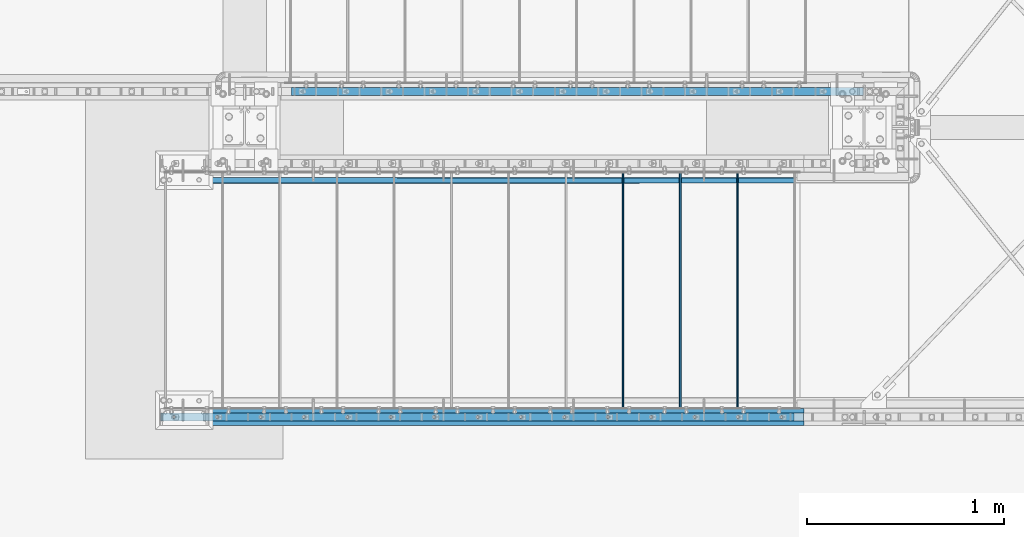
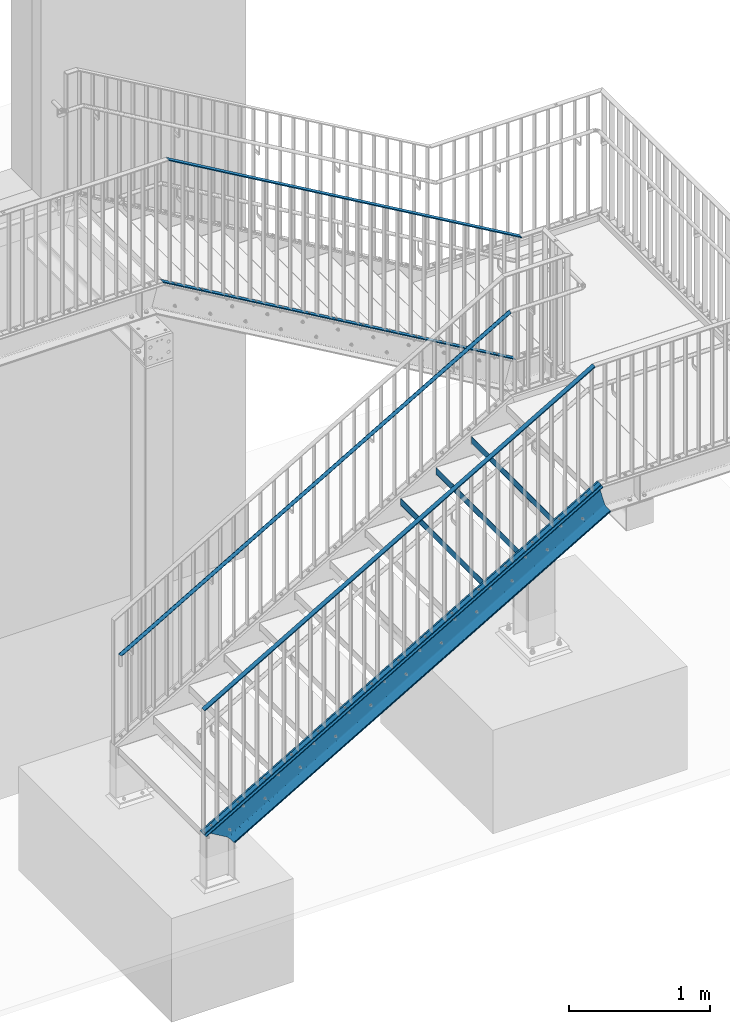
# One storey, part 13 of 145: 6 members, 3 beams, 64 openings.
"""IFC2X3 building model written with IfcOpenShell, lengths in millimetres."""

from ifc_helpers import new_model, entity, si_unit, converted_unit, frame, frame_2d, origin, origin_with_axes, origin_2d, origin_2d_with_axis, place, context, project, spatial, polyline, rectangle, circle, hollow_circle, u_section, outline, extrude, clip, halfspace, material, element, save


model = new_model("IFC2X3")

# Units and contexts
model_context = context("Model", 3, precision=1e-09, world=origin_with_axes())
ifc_project = project(units=[si_unit("LENGTHUNIT", "METRE", prefix="MILLI"), si_unit("AREAUNIT", "SQUARE_METRE"), si_unit("VOLUMEUNIT", "CUBIC_METRE"), converted_unit("PLANEANGLEUNIT", "DEGREE", entity("IfcPlaneAngleMeasure", 0.01745329), si_unit("PLANEANGLEUNIT", "RADIAN"), dimensions=[0, 0, 0, 0, 0, 0, 0])], contexts=[model_context])

# Site, building, storey
site_placement = place(None, origin_with_axes())
site = spatial("IfcSite", under=ifc_project, at=site_placement, Name="BZ1 Grund- und Mittelschule 85716 Unterschlei?heim", CompositionType="ELEMENT")
building_placement = place(site_placement, origin_with_axes())
building = spatial("IfcBuilding", under=site, at=building_placement, Name="Struktur 1", CompositionType="ELEMENT")
storey_placement = place(building_placement, origin_with_axes())
storey = spatial("IfcBuildingStorey", under=building, at=storey_placement, Name="Default Storey", CompositionType="ELEMENT", Elevation=0.0)

# Member
ifc_material_1 = material(Name="1.4301")
member_1_placement = place(None, frame((16638.389854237, -1962.502, 526.075041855), z_axis=(0.864466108, 0.0, 0.502691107), x_axis=(0.0, 1.0, 0.0)))
element("IfcMember", 1, at=member_1_placement, inside=storey, material=ifc_material_1, Name="-", ObjectType="-", context=model_context, shape_type="Clipping", body=[
    clip(clip(extrude(hollow_circle(Radius=15.0, WallThickness=2.0, at=origin_2d()), origin(), (0.0, 0.0, 1.0), 3747.044210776), halfspace(frame((1962.502, 2755.280359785, 4467.941930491), z_axis=(0.0, 0.260320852, -0.965522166), x_axis=(-1.0, 0.0, 0.0)), True)), halfspace(frame((1962.502, 12284.371726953, -7042.462647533), z_axis=(0.0, 0.498652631, 0.866801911), x_axis=(1.0, 0.0, 0.0)), True)),
])

# Beams
ifc_material_2 = material(Name="S235JR")
for number, where, z_axis, x_axis in (
    (2, (18984.545399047, -3117.002, 1057.727273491), (0.0, -1.0, 0.0), (1.0, 0.0, 0.0)),
    (3, (19274.545399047, -3117.002, 1226.363637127), (0.0, -1.0, 0.0), (1.0, 0.0, 0.0)),
    (4, (19564.545399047, -3117.002, 1395.000000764), (0.0, -1.0, 0.0), (1.0, 0.0, 0.0)),
):
    element("IfcBeam", number, at=place(None, frame(where, z_axis=z_axis, x_axis=x_axis)), inside=storey, material=ifc_material_2, Name="-", ObjectType="-", context=model_context, shape_type="SweptSolid", body=[
        extrude(outline(polyline([(0.0, 0.0), (0.0, -57.009618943), (7.5, -70.0), (9.232050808, -69.0), (2.0, -56.473720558), (2.0, 0.0), (0.0, 0.0)])), origin(), (0.0, 0.0, -1.0), 1194.0),
    ])

# Member, openings
member_2_placement = place(None, frame((20174.891483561, -1512.502, 1607.017315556), z_axis=(0.864466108, 0.0, -0.502691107), x_axis=(0.502691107, 0.0, 0.864466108)))
member_2 = element("IfcMember", 5, at=member_2_placement, inside=storey, material=ifc_material_2, Name="-", ObjectType="-", context=model_context, shape_type="Clipping", body=[
    clip(clip(extrude(rectangle(XDim=8.0, YDim=40.0, at=origin_2d()), origin(), (0.0, 0.0, -1.0), 3396.921412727), halfspace(frame((-7417.475228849, -1512.502, -1375.921150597), z_axis=(0.260320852, 0.0, 0.965522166), x_axis=(0.0, -1.0, 0.0)), True)), halfspace(frame((-6574.293706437, -1512.502, 1751.413609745), z_axis=(-0.260320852, 0.0, -0.965522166), x_axis=(0.0, 1.0, 0.0)), True)),
])
opening_1_placement = place(member_2_placement, frame((-4.5, 0.0, -1457.609600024), z_axis=(-1.0, 0.0, 0.0), x_axis=(0.0, -1.0, 0.0)))
element("IfcOpeningElement", 6, at=opening_1_placement, cuts=member_2, ObjectType="Opening", context=model_context, shape_type="SweptSolid", body=[
    extrude(circle(Radius=7.501, at=frame_2d((0.0, -7.501), x_axis=(1.0, 0.0))), origin(), (0.0, 0.0, -1.0), 9.0),
])
opening_2_placement = place(member_2_placement, frame((-4.5, 0.0, -3239.05770343), z_axis=(-1.0, 0.0, 0.0), x_axis=(0.0, -1.0, 0.0)))
element("IfcOpeningElement", 7, at=opening_2_placement, cuts=member_2, ObjectType="Opening", context=model_context, shape_type="SweptSolid", body=[
    extrude(circle(Radius=7.501, at=frame_2d((0.0, -7.501), x_axis=(1.0, 0.0))), origin(), (0.0, 0.0, -1.0), 9.0),
])
opening_3_placement = place(member_2_placement, frame((-4.5, -0.004106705, -2984.564784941), z_axis=(-1.0, 0.0, 0.0), x_axis=(0.0, -1.0, 0.0)))
element("IfcOpeningElement", 8, at=opening_3_placement, cuts=member_2, ObjectType="Opening", context=model_context, shape_type="SweptSolid", body=[
    extrude(circle(Radius=7.501, at=frame_2d((0.0, -7.501), x_axis=(1.0, 0.0))), origin(), (0.0, 0.0, -1.0), 9.0),
])
opening_4_placement = place(member_2_placement, frame((-4.5, 0.0, -2221.087773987), z_axis=(-1.0, 0.0, 0.0), x_axis=(0.0, -1.0, 0.0)))
element("IfcOpeningElement", 9, at=opening_4_placement, cuts=member_2, ObjectType="Opening", context=model_context, shape_type="SweptSolid", body=[
    extrude(circle(Radius=7.501, at=frame_2d((0.0, -7.501), x_axis=(1.0, 0.0))), origin(), (0.0, 0.0, -1.0), 9.0),
])
opening_5_placement = place(member_2_placement, frame((-4.5, 0.0, -185.146752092), z_axis=(-1.0, 0.0, 0.0), x_axis=(0.0, -1.0, 0.0)))
element("IfcOpeningElement", 10, at=opening_5_placement, cuts=member_2, ObjectType="Opening", context=model_context, shape_type="SweptSolid", body=[
    extrude(circle(Radius=7.501, at=frame_2d((0.0, -7.501), x_axis=(1.0, 0.0))), origin(), (0.0, 0.0, -1.0), 9.0),
])
opening_6_placement = place(member_2_placement, frame((-4.5, 0.0, -439.639670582), z_axis=(-1.0, 0.0, 0.0), x_axis=(0.0, -1.0, 0.0)))
element("IfcOpeningElement", 11, at=opening_6_placement, cuts=member_2, ObjectType="Opening", context=model_context, shape_type="SweptSolid", body=[
    extrude(circle(Radius=7.501, at=frame_2d((0.0, -7.501), x_axis=(1.0, 0.0))), origin(), (0.0, 0.0, -1.0), 9.0),
])
opening_7_placement = place(member_2_placement, frame((-4.5, 0.0, -1203.11726304), z_axis=(-1.0, 0.0, 0.0), x_axis=(0.0, -1.0, 0.0)))
element("IfcOpeningElement", 12, at=opening_7_placement, cuts=member_2, ObjectType="Opening", context=model_context, shape_type="SweptSolid", body=[
    extrude(circle(Radius=7.501, at=frame_2d((0.0, -7.501), x_axis=(1.0, 0.0))), origin(), (0.0, 0.0, -1.0), 9.0),
])
opening_8_placement = place(member_2_placement, frame((-4.5, 0.0, -948.624344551), z_axis=(-1.0, 0.0, 0.0), x_axis=(0.0, -1.0, 0.0)))
element("IfcOpeningElement", 13, at=opening_8_placement, cuts=member_2, ObjectType="Opening", context=model_context, shape_type="SweptSolid", body=[
    extrude(circle(Radius=7.501, at=frame_2d((0.0, -7.501), x_axis=(1.0, 0.0))), origin(), (0.0, 0.0, -1.0), 9.0),
])
opening_9_placement = place(member_2_placement, frame((-4.5, 0.0, -2730.071866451), z_axis=(-1.0, 0.0, 0.0), x_axis=(0.0, -1.0, 0.0)))
element("IfcOpeningElement", 14, at=opening_9_placement, cuts=member_2, ObjectType="Opening", context=model_context, shape_type="SweptSolid", body=[
    extrude(circle(Radius=7.501, at=frame_2d((0.0, -7.501), x_axis=(1.0, 0.0))), origin(), (0.0, 0.0, -1.0), 9.0),
])
opening_10_placement = place(member_2_placement, frame((-4.5, 0.0, -2475.579529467), z_axis=(-1.0, 0.0, 0.0), x_axis=(0.0, -1.0, 0.0)))
element("IfcOpeningElement", 15, at=opening_10_placement, cuts=member_2, ObjectType="Opening", context=model_context, shape_type="SweptSolid", body=[
    extrude(circle(Radius=7.501, at=frame_2d((0.0, -7.501), x_axis=(1.0, 0.0))), origin(), (0.0, 0.0, -1.0), 9.0),
])
opening_11_placement = place(member_2_placement, frame((-4.5, 0.0, -1966.595437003), z_axis=(-1.0, 0.0, 0.0), x_axis=(0.0, -1.0, 0.0)))
element("IfcOpeningElement", 16, at=opening_11_placement, cuts=member_2, ObjectType="Opening", context=model_context, shape_type="SweptSolid", body=[
    extrude(circle(Radius=7.501, at=frame_2d((0.0, -7.501), x_axis=(1.0, 0.0))), origin(), (0.0, 0.0, -1.0), 9.0),
])
opening_12_placement = place(member_2_placement, frame((-4.5, 0.0, -1712.102518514), z_axis=(-1.0, 0.0, 0.0), x_axis=(0.0, -1.0, 0.0)))
element("IfcOpeningElement", 17, at=opening_12_placement, cuts=member_2, ObjectType="Opening", context=model_context, shape_type="SweptSolid", body=[
    extrude(circle(Radius=7.501, at=frame_2d((0.0, -7.501), x_axis=(1.0, 0.0))), origin(), (0.0, 0.0, -1.0), 9.0),
])
opening_13_placement = place(member_2_placement, frame((-4.5, 0.0, -694.132007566), z_axis=(-1.0, 0.0, 0.0), x_axis=(0.0, -1.0, 0.0)))
element("IfcOpeningElement", 18, at=opening_13_placement, cuts=member_2, ObjectType="Opening", context=model_context, shape_type="SweptSolid", body=[
    extrude(circle(Radius=7.501, at=frame_2d((0.0, -7.501), x_axis=(1.0, 0.0))), origin(), (0.0, 0.0, -1.0), 9.0),
])

# Member
member_3_placement = place(None, frame((20224.324846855, -1512.502, 2649.017315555), z_axis=(0.864466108, 0.0, -0.502691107), x_axis=(0.502691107, 0.0, 0.864466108)))
element("IfcMember", 19, at=member_3_placement, inside=storey, material=ifc_material_2, Name="-", ObjectType="-", context=model_context, shape_type="Clipping", body=[
    clip(clip(extrude(rectangle(XDim=8.0, YDim=40.0, at=origin_2d()), origin(), (0.0, 0.0, -1.0), 3396.920517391), halfspace(frame((-8401.286702, -1512.502, -1110.668301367), z_axis=(0.260320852, 0.0, 0.965522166), x_axis=(0.0, -1.0, 0.0)), True)), halfspace(frame((-7558.105404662, -1512.502, 2016.665624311), z_axis=(-0.260320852, 0.0, -0.965522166), x_axis=(0.0, 1.0, 0.0)), True)),
])

# Member, openings
member_4_placement = place(None, frame((16613.187174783, -3162.502, -296.601551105), z_axis=(-0.864466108, 0.0, -0.502691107), x_axis=(0.502691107, 0.0, -0.864466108)))
member_4 = element("IfcMember", 20, at=member_4_placement, inside=storey, material=ifc_material_2, Name="-", ObjectType="-", context=model_context, shape_type="Clipping", body=[
    clip(clip(extrude(rectangle(XDim=8.0, YDim=40.0, at=origin_2d()), origin(), (0.0, 0.0, -1.0), 3829.105765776), halfspace(frame((4020.422097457, -3162.502, 6947.74731383), z_axis=(0.866801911, 0.0, -0.498652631), x_axis=(0.0, -1.0, 0.0)), True)), halfspace(frame((-3495.033569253, -3162.502, -4750.299571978), z_axis=(-0.260320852, 0.0, 0.965522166), x_axis=(0.0, 1.0, 0.0)), True)),
])
opening_14_placement = place(member_4_placement, frame((4.5, 0.0, -2660.773127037), z_axis=(-1.0, 0.0, 0.0), x_axis=(0.0, 0.0, -1.0)))
element("IfcOpeningElement", 21, at=opening_14_placement, cuts=member_4, ObjectType="Opening", context=model_context, shape_type="SweptSolid", body=[
    extrude(circle(Radius=7.501, at=origin_2d_with_axis()), origin(), (0.0, 0.0, 1.0), 9.0),
])
opening_15_placement = place(member_4_placement, frame((4.5, 0.0, -2151.787871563), z_axis=(-1.0, 0.0, 0.0), x_axis=(0.0, 0.0, -1.0)))
element("IfcOpeningElement", 22, at=opening_15_placement, cuts=member_4, ObjectType="Opening", context=model_context, shape_type="SweptSolid", body=[
    extrude(circle(Radius=7.501, at=origin_2d_with_axis()), origin(), (0.0, 0.0, 1.0), 9.0),
])
opening_16_placement = place(member_4_placement, frame((4.5, 0.0, -1388.310279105), z_axis=(-1.0, 0.0, 0.0), x_axis=(0.0, 0.0, -1.0)))
element("IfcOpeningElement", 23, at=opening_16_placement, cuts=member_4, ObjectType="Opening", context=model_context, shape_type="SweptSolid", body=[
    extrude(circle(Radius=7.501, at=origin_2d_with_axis()), origin(), (0.0, 0.0, 1.0), 9.0),
])
opening_17_placement = place(member_4_placement, frame((4.5, 0.0, -2406.280790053), z_axis=(-1.0, 0.0, 0.0), x_axis=(0.0, 0.0, -1.0)))
element("IfcOpeningElement", 24, at=opening_17_placement, cuts=member_4, ObjectType="Opening", context=model_context, shape_type="SweptSolid", body=[
    extrude(circle(Radius=7.501, at=origin_2d_with_axis()), origin(), (0.0, 0.0, 1.0), 9.0),
])
opening_18_placement = place(member_4_placement, frame((4.5, -0.004106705, -3424.25013799), z_axis=(-1.0, 0.0, 0.0), x_axis=(0.0, 0.0, -1.0)))
element("IfcOpeningElement", 25, at=opening_18_placement, cuts=member_4, ObjectType="Opening", context=model_context, shape_type="SweptSolid", body=[
    extrude(circle(Radius=7.501, at=origin_2d_with_axis()), origin(), (0.0, 0.0, 1.0), 9.0),
])
opening_19_placement = place(member_4_placement, frame((4.5, 0.0, -3678.74305648), z_axis=(-1.0, 0.0, 0.0), x_axis=(0.0, 0.0, -1.0)))
element("IfcOpeningElement", 26, at=opening_19_placement, cuts=member_4, ObjectType="Opening", context=model_context, shape_type="SweptSolid", body=[
    extrude(circle(Radius=7.501, at=origin_2d_with_axis()), origin(), (0.0, 0.0, 1.0), 9.0),
])
opening_20_placement = place(member_4_placement, frame((4.5, 0.0, -1897.294953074), z_axis=(-1.0, 0.0, 0.0), x_axis=(0.0, 0.0, -1.0)))
element("IfcOpeningElement", 27, at=opening_20_placement, cuts=member_4, ObjectType="Opening", context=model_context, shape_type="SweptSolid", body=[
    extrude(circle(Radius=7.501, at=origin_2d_with_axis()), origin(), (0.0, 0.0, 1.0), 9.0),
])
opening_21_placement = place(member_4_placement, frame((4.5, 0.0, -624.832686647), z_axis=(-1.0, 0.0, 0.0), x_axis=(0.0, 0.0, -1.0)))
element("IfcOpeningElement", 28, at=opening_21_placement, cuts=member_4, ObjectType="Opening", context=model_context, shape_type="SweptSolid", body=[
    extrude(circle(Radius=7.501, at=origin_2d_with_axis()), origin(), (0.0, 0.0, 1.0), 9.0),
])
opening_22_placement = place(member_4_placement, frame((4.5, 0.0, -3169.757219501), z_axis=(-1.0, 0.0, 0.0), x_axis=(0.0, 0.0, -1.0)))
element("IfcOpeningElement", 29, at=opening_22_placement, cuts=member_4, ObjectType="Opening", context=model_context, shape_type="SweptSolid", body=[
    extrude(circle(Radius=7.501, at=origin_2d_with_axis()), origin(), (0.0, 0.0, 1.0), 9.0),
])
opening_23_placement = place(member_4_placement, frame((4.5, 0.0, -1133.817942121), z_axis=(-1.0, 0.0, 0.0), x_axis=(0.0, 0.0, -1.0)))
element("IfcOpeningElement", 30, at=opening_23_placement, cuts=member_4, ObjectType="Opening", context=model_context, shape_type="SweptSolid", body=[
    extrude(circle(Radius=7.501, at=origin_2d_with_axis()), origin(), (0.0, 0.0, 1.0), 9.0),
])
opening_24_placement = place(member_4_placement, frame((4.5, 0.0, -370.340349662), z_axis=(-1.0, 0.0, 0.0), x_axis=(0.0, 0.0, -1.0)))
element("IfcOpeningElement", 31, at=opening_24_placement, cuts=member_4, ObjectType="Opening", context=model_context, shape_type="SweptSolid", body=[
    extrude(circle(Radius=7.501, at=origin_2d_with_axis()), origin(), (0.0, 0.0, 1.0), 9.0),
])
opening_25_placement = place(member_4_placement, frame((4.5, 0.0, -879.325605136), z_axis=(-1.0, 0.0, 0.0), x_axis=(0.0, 0.0, -1.0)))
element("IfcOpeningElement", 32, at=opening_25_placement, cuts=member_4, ObjectType="Opening", context=model_context, shape_type="SweptSolid", body=[
    extrude(circle(Radius=7.501, at=origin_2d_with_axis()), origin(), (0.0, 0.0, 1.0), 9.0),
])
opening_26_placement = place(member_4_placement, frame((4.5, 0.0, -115.848012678), z_axis=(-1.0, 0.0, 0.0), x_axis=(0.0, 0.0, -1.0)))
element("IfcOpeningElement", 33, at=opening_26_placement, cuts=member_4, ObjectType="Opening", context=model_context, shape_type="SweptSolid", body=[
    extrude(circle(Radius=7.501, at=origin_2d_with_axis()), origin(), (0.0, 0.0, 1.0), 9.0),
])
opening_27_placement = place(member_4_placement, frame((4.5, 0.0, -1642.803197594), z_axis=(-1.0, 0.0, 0.0), x_axis=(0.0, 0.0, -1.0)))
element("IfcOpeningElement", 34, at=opening_27_placement, cuts=member_4, ObjectType="Opening", context=model_context, shape_type="SweptSolid", body=[
    extrude(circle(Radius=7.501, at=origin_2d_with_axis()), origin(), (0.0, 0.0, 1.0), 9.0),
])
opening_28_placement = place(member_4_placement, frame((4.5, 0.0, -2915.264882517), z_axis=(-1.0, 0.0, 0.0), x_axis=(0.0, 0.0, -1.0)))
element("IfcOpeningElement", 35, at=opening_28_placement, cuts=member_4, ObjectType="Opening", context=model_context, shape_type="SweptSolid", body=[
    extrude(circle(Radius=7.501, at=origin_2d_with_axis()), origin(), (0.0, 0.0, 1.0), 9.0),
])

member_5_placement = place(None, frame((16593.104863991, -3142.302, -451.720644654), z_axis=(-0.864466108, 0.0, -0.502691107), x_axis=(0.0, -1.0, 0.0)))
member_5 = element("IfcMember", 36, at=member_5_placement, inside=storey, material=ifc_material_2, Name="-", ObjectType="-", context=model_context, shape_type="Clipping", body=[
    clip(clip(extrude(u_section(Depth=240.0, FlangeWidth=85.0, WebThickness=9.5, FlangeThickness=13.0, FilletRadius=13.0, EdgeRadius=6.5, FlangeSlope=4.574, at=frame_2d((20.2, 0.0))), origin(), (0.0, 0.0, -1.0), 4047.92775273), halfspace(frame((-3142.302, 12748.124914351, 7135.403351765), z_axis=(0.0, 0.498652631, -0.866801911), x_axis=(-1.0, 0.0, 0.0)), True)), halfspace(frame((-3142.302, 3619.033794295, -4845.636203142), z_axis=(0.0, 0.260320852, 0.965522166), x_axis=(1.0, 0.0, 0.0)), True)),
])
opening_29_placement = place(member_5_placement, frame((20.2, 106.5, -3265.094685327), z_axis=(0.0, 1.0, 0.0), x_axis=(0.0, 0.0, -1.0)))
element("IfcOpeningElement", 37, at=opening_29_placement, cuts=member_5, ObjectType="Opening", context=model_context, shape_type="SweptSolid", body=[
    extrude(circle(Radius=7.001, at=origin_2d_with_axis()), origin(), (0.0, 0.0, 1.0), 14.0),
])
opening_30_placement = place(member_5_placement, frame((20.2, 106.5, -2247.125337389), z_axis=(0.0, 1.0, 0.0), x_axis=(0.0, 0.0, -1.0)))
element("IfcOpeningElement", 38, at=opening_30_placement, cuts=member_5, ObjectType="Opening", context=model_context, shape_type="SweptSolid", body=[
    extrude(circle(Radius=7.001, at=origin_2d_with_axis()), origin(), (0.0, 0.0, 1.0), 14.0),
])
opening_31_placement = place(member_5_placement, frame((20.2, 106.5, -1738.14066342), z_axis=(0.0, 1.0, 0.0), x_axis=(0.0, 0.0, -1.0)))
element("IfcOpeningElement", 39, at=opening_31_placement, cuts=member_5, ObjectType="Opening", context=model_context, shape_type="SweptSolid", body=[
    extrude(circle(Radius=7.001, at=origin_2d_with_axis()), origin(), (0.0, 0.0, 1.0), 14.0),
])
opening_32_placement = place(member_5_placement, frame((-12.3, -52.913545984, -1306.981680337), z_axis=(-1.0, 0.0, 0.0), x_axis=(0.0, 0.864466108, -0.502691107)))
element("IfcOpeningElement", 40, at=opening_32_placement, cuts=member_5, ObjectType="Opening", context=model_context, shape_type="SweptSolid", body=[
    extrude(circle(Radius=7.001, at=origin_2d_with_axis()), origin(), (0.0, 0.0, 1.0), 10.5),
])
opening_33_placement = place(member_5_placement, frame((-12.3, -52.913545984, -2984.317537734), z_axis=(-1.0, 0.0, 0.0), x_axis=(0.0, 0.864466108, -0.502691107)))
element("IfcOpeningElement", 41, at=opening_33_placement, cuts=member_5, ObjectType="Opening", context=model_context, shape_type="SweptSolid", body=[
    extrude(circle(Radius=7.001, at=origin_2d_with_axis()), origin(), (0.0, 0.0, 1.0), 10.5),
])
opening_34_placement = place(member_5_placement, frame((-12.3, 37.570853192, -1486.844952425), z_axis=(-1.0, 0.0, 0.0), x_axis=(0.0, 0.864466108, -0.502691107)))
element("IfcOpeningElement", 42, at=opening_34_placement, cuts=member_5, ObjectType="Opening", context=model_context, shape_type="SweptSolid", body=[
    extrude(circle(Radius=7.001, at=origin_2d_with_axis()), origin(), (0.0, 0.0, 1.0), 10.5),
])
opening_35_placement = place(member_5_placement, frame((-12.3, -52.913545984, -2648.850366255), z_axis=(-1.0, 0.0, 0.0), x_axis=(0.0, 0.864466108, -0.502691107)))
element("IfcOpeningElement", 43, at=opening_35_placement, cuts=member_5, ObjectType="Opening", context=model_context, shape_type="SweptSolid", body=[
    extrude(circle(Radius=7.001, at=origin_2d_with_axis()), origin(), (0.0, 0.0, 1.0), 10.5),
])
opening_36_placement = place(member_5_placement, frame((20.2, 106.5, -2756.110592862), z_axis=(0.0, 1.0, 0.0), x_axis=(0.0, 0.0, -1.0)))
element("IfcOpeningElement", 44, at=opening_36_placement, cuts=member_5, ObjectType="Opening", context=model_context, shape_type="SweptSolid", body=[
    extrude(circle(Radius=7.001, at=origin_2d_with_axis()), origin(), (0.0, 0.0, 1.0), 14.0),
])
opening_37_placement = place(member_5_placement, frame((20.195893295, 106.5, -3519.587603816), z_axis=(0.0, 1.0, 0.0), x_axis=(0.0, 0.0, -1.0)))
element("IfcOpeningElement", 45, at=opening_37_placement, cuts=member_5, ObjectType="Opening", context=model_context, shape_type="SweptSolid", body=[
    extrude(circle(Radius=7.001, at=origin_2d_with_axis()), origin(), (0.0, 0.0, 1.0), 14.0),
])
opening_38_placement = place(member_5_placement, frame((-12.3, -52.913545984, -636.047337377), z_axis=(-1.0, 0.0, 0.0), x_axis=(0.0, 0.864466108, -0.502691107)))
element("IfcOpeningElement", 46, at=opening_38_placement, cuts=member_5, ObjectType="Opening", context=model_context, shape_type="SweptSolid", body=[
    extrude(circle(Radius=7.001, at=origin_2d_with_axis()), origin(), (0.0, 0.0, 1.0), 10.5),
])
opening_39_placement = place(member_5_placement, frame((-12.3, 37.570853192, -480.443437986), z_axis=(-1.0, 0.0, 0.0), x_axis=(0.0, 0.864466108, -0.502691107)))
element("IfcOpeningElement", 47, at=opening_39_placement, cuts=member_5, ObjectType="Opening", context=model_context, shape_type="SweptSolid", body=[
    extrude(circle(Radius=7.001, at=origin_2d_with_axis()), origin(), (0.0, 0.0, 1.0), 10.5),
])
opening_40_placement = place(member_5_placement, frame((20.2, 106.5, -3774.080522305), z_axis=(0.0, 1.0, 0.0), x_axis=(0.0, 0.0, -1.0)))
element("IfcOpeningElement", 48, at=opening_40_placement, cuts=member_5, ObjectType="Opening", context=model_context, shape_type="SweptSolid", body=[
    extrude(circle(Radius=7.001, at=origin_2d_with_axis()), origin(), (0.0, 0.0, 1.0), 14.0),
])
opening_41_placement = place(member_5_placement, frame((-12.3, -52.913545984, -1977.916023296), z_axis=(-1.0, 0.0, 0.0), x_axis=(0.0, 0.864466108, -0.502691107)))
element("IfcOpeningElement", 49, at=opening_41_placement, cuts=member_5, ObjectType="Opening", context=model_context, shape_type="SweptSolid", body=[
    extrude(circle(Radius=7.001, at=origin_2d_with_axis()), origin(), (0.0, 0.0, 1.0), 10.5),
])
opening_42_placement = place(member_5_placement, frame((-12.3, -52.913545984, -3655.251880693), z_axis=(-1.0, 0.0, 0.0), x_axis=(0.0, 0.864466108, -0.502691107)))
element("IfcOpeningElement", 50, at=opening_42_placement, cuts=member_5, ObjectType="Opening", context=model_context, shape_type="SweptSolid", body=[
    extrude(circle(Radius=7.001, at=origin_2d_with_axis()), origin(), (0.0, 0.0, 1.0), 10.5),
])
opening_43_placement = place(member_5_placement, frame((20.2, 106.5, -1992.632418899), z_axis=(0.0, 1.0, 0.0), x_axis=(0.0, 0.0, -1.0)))
element("IfcOpeningElement", 51, at=opening_43_placement, cuts=member_5, ObjectType="Opening", context=model_context, shape_type="SweptSolid", body=[
    extrude(circle(Radius=7.001, at=origin_2d_with_axis()), origin(), (0.0, 0.0, 1.0), 14.0),
])
opening_44_placement = place(member_5_placement, frame((-12.3, -52.913545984, -1642.448851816), z_axis=(-1.0, 0.0, 0.0), x_axis=(0.0, 0.864466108, -0.502691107)))
element("IfcOpeningElement", 52, at=opening_44_placement, cuts=member_5, ObjectType="Opening", context=model_context, shape_type="SweptSolid", body=[
    extrude(circle(Radius=7.001, at=origin_2d_with_axis()), origin(), (0.0, 0.0, 1.0), 10.5),
])
opening_45_placement = place(member_5_placement, frame((-12.3, 37.570853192, -2493.246466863), z_axis=(-1.0, 0.0, 0.0), x_axis=(0.0, 0.864466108, -0.502691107)))
element("IfcOpeningElement", 53, at=opening_45_placement, cuts=member_5, ObjectType="Opening", context=model_context, shape_type="SweptSolid", body=[
    extrude(circle(Radius=7.001, at=origin_2d_with_axis()), origin(), (0.0, 0.0, 1.0), 10.5),
])
opening_46_placement = place(member_5_placement, frame((20.2, 106.5, -720.170152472), z_axis=(0.0, 1.0, 0.0), x_axis=(0.0, 0.0, -1.0)))
element("IfcOpeningElement", 54, at=opening_46_placement, cuts=member_5, ObjectType="Opening", context=model_context, shape_type="SweptSolid", body=[
    extrude(circle(Radius=7.001, at=origin_2d_with_axis()), origin(), (0.0, 0.0, 1.0), 14.0),
])
opening_47_placement = place(member_5_placement, frame((-12.3, 37.570853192, -1822.312123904), z_axis=(-1.0, 0.0, 0.0), x_axis=(0.0, 0.864466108, -0.502691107)))
element("IfcOpeningElement", 55, at=opening_47_placement, cuts=member_5, ObjectType="Opening", context=model_context, shape_type="SweptSolid", body=[
    extrude(circle(Radius=7.001, at=origin_2d_with_axis()), origin(), (0.0, 0.0, 1.0), 10.5),
])
opening_48_placement = place(member_5_placement, frame((-12.3, 37.570853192, -2828.713638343), z_axis=(-1.0, 0.0, 0.0), x_axis=(0.0, 0.864466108, -0.502691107)))
element("IfcOpeningElement", 56, at=opening_48_placement, cuts=member_5, ObjectType="Opening", context=model_context, shape_type="SweptSolid", body=[
    extrude(circle(Radius=7.001, at=origin_2d_with_axis()), origin(), (0.0, 0.0, 1.0), 10.5),
])
opening_49_placement = place(member_5_placement, frame((20.2, 106.5, -465.677815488), z_axis=(0.0, 1.0, 0.0), x_axis=(0.0, 0.0, -1.0)))
element("IfcOpeningElement", 57, at=opening_49_placement, cuts=member_5, ObjectType="Opening", context=model_context, shape_type="SweptSolid", body=[
    extrude(circle(Radius=7.001, at=origin_2d_with_axis()), origin(), (0.0, 0.0, 1.0), 14.0),
])
opening_50_placement = place(member_5_placement, frame((20.2, 106.5, -974.663070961), z_axis=(0.0, 1.0, 0.0), x_axis=(0.0, 0.0, -1.0)))
element("IfcOpeningElement", 58, at=opening_50_placement, cuts=member_5, ObjectType="Opening", context=model_context, shape_type="SweptSolid", body=[
    extrude(circle(Radius=7.001, at=origin_2d_with_axis()), origin(), (0.0, 0.0, 1.0), 14.0),
])
opening_51_placement = place(member_5_placement, frame((20.2, 106.5, -1229.155407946), z_axis=(0.0, 1.0, 0.0), x_axis=(0.0, 0.0, -1.0)))
element("IfcOpeningElement", 59, at=opening_51_placement, cuts=member_5, ObjectType="Opening", context=model_context, shape_type="SweptSolid", body=[
    extrude(circle(Radius=7.001, at=origin_2d_with_axis()), origin(), (0.0, 0.0, 1.0), 14.0),
])
opening_52_placement = place(member_5_placement, frame((-12.3, -52.913545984, -971.514508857), z_axis=(-1.0, 0.0, 0.0), x_axis=(0.0, 0.864466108, -0.502691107)))
element("IfcOpeningElement", 60, at=opening_52_placement, cuts=member_5, ObjectType="Opening", context=model_context, shape_type="SweptSolid", body=[
    extrude(circle(Radius=7.001, at=origin_2d_with_axis()), origin(), (0.0, 0.0, 1.0), 10.5),
])
opening_53_placement = place(member_5_placement, frame((-12.3, 37.570853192, -3164.180809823), z_axis=(-1.0, 0.0, 0.0), x_axis=(0.0, 0.864466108, -0.502691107)))
element("IfcOpeningElement", 61, at=opening_53_placement, cuts=member_5, ObjectType="Opening", context=model_context, shape_type="SweptSolid", body=[
    extrude(circle(Radius=7.001, at=origin_2d_with_axis()), origin(), (0.0, 0.0, 1.0), 10.5),
])
opening_54_placement = place(member_5_placement, frame((-12.3, -52.913545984, -2313.383194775), z_axis=(-1.0, 0.0, 0.0), x_axis=(0.0, 0.864466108, -0.502691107)))
element("IfcOpeningElement", 62, at=opening_54_placement, cuts=member_5, ObjectType="Opening", context=model_context, shape_type="SweptSolid", body=[
    extrude(circle(Radius=7.001, at=origin_2d_with_axis()), origin(), (0.0, 0.0, 1.0), 10.5),
])
opening_55_placement = place(member_5_placement, frame((-12.3, 37.570853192, -2157.779295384), z_axis=(-1.0, 0.0, 0.0), x_axis=(0.0, 0.864466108, -0.502691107)))
element("IfcOpeningElement", 63, at=opening_55_placement, cuts=member_5, ObjectType="Opening", context=model_context, shape_type="SweptSolid", body=[
    extrude(circle(Radius=7.001, at=origin_2d_with_axis()), origin(), (0.0, 0.0, 1.0), 10.5),
])
opening_56_placement = place(member_5_placement, frame((20.2, 106.5, -3010.602348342), z_axis=(0.0, 1.0, 0.0), x_axis=(0.0, 0.0, -1.0)))
element("IfcOpeningElement", 64, at=opening_56_placement, cuts=member_5, ObjectType="Opening", context=model_context, shape_type="SweptSolid", body=[
    extrude(circle(Radius=7.001, at=origin_2d_with_axis()), origin(), (0.0, 0.0, 1.0), 14.0),
])
opening_57_placement = place(member_5_placement, frame((20.2, 106.5, -211.185478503), z_axis=(0.0, 1.0, 0.0), x_axis=(0.0, 0.0, -1.0)))
element("IfcOpeningElement", 65, at=opening_57_placement, cuts=member_5, ObjectType="Opening", context=model_context, shape_type="SweptSolid", body=[
    extrude(circle(Radius=7.001, at=origin_2d_with_axis()), origin(), (0.0, 0.0, 1.0), 14.0),
])
opening_58_placement = place(member_5_placement, frame((-12.3, -52.913545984, -300.580165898), z_axis=(-1.0, 0.0, 0.0), x_axis=(0.0, 0.864466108, -0.502691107)))
element("IfcOpeningElement", 66, at=opening_58_placement, cuts=member_5, ObjectType="Opening", context=model_context, shape_type="SweptSolid", body=[
    extrude(circle(Radius=7.001, at=origin_2d_with_axis()), origin(), (0.0, 0.0, 1.0), 10.5),
])
opening_59_placement = place(member_5_placement, frame((-12.3, 37.570853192, -3499.647981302), z_axis=(-1.0, 0.0, 0.0), x_axis=(0.0, 0.864466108, -0.502691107)))
element("IfcOpeningElement", 67, at=opening_59_placement, cuts=member_5, ObjectType="Opening", context=model_context, shape_type="SweptSolid", body=[
    extrude(circle(Radius=7.001, at=origin_2d_with_axis()), origin(), (0.0, 0.0, 1.0), 10.5),
])
opening_60_placement = place(member_5_placement, frame((-12.3, -52.913545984, -3319.784709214), z_axis=(-1.0, 0.0, 0.0), x_axis=(0.0, 0.864466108, -0.502691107)))
element("IfcOpeningElement", 68, at=opening_60_placement, cuts=member_5, ObjectType="Opening", context=model_context, shape_type="SweptSolid", body=[
    extrude(circle(Radius=7.001, at=origin_2d_with_axis()), origin(), (0.0, 0.0, 1.0), 10.5),
])
opening_61_placement = place(member_5_placement, frame((20.2, 106.5, -1483.64774493), z_axis=(0.0, 1.0, 0.0), x_axis=(0.0, 0.0, -1.0)))
element("IfcOpeningElement", 69, at=opening_61_placement, cuts=member_5, ObjectType="Opening", context=model_context, shape_type="SweptSolid", body=[
    extrude(circle(Radius=7.001, at=origin_2d_with_axis()), origin(), (0.0, 0.0, 1.0), 14.0),
])
opening_62_placement = place(member_5_placement, frame((-12.3, 37.570853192, -815.910609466), z_axis=(-1.0, 0.0, 0.0), x_axis=(0.0, 0.864466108, -0.502691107)))
element("IfcOpeningElement", 70, at=opening_62_placement, cuts=member_5, ObjectType="Opening", context=model_context, shape_type="SweptSolid", body=[
    extrude(circle(Radius=7.001, at=origin_2d_with_axis()), origin(), (0.0, 0.0, 1.0), 10.5),
])
opening_63_placement = place(member_5_placement, frame((20.2, 106.5, -2501.618255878), z_axis=(0.0, 1.0, 0.0), x_axis=(0.0, 0.0, -1.0)))
element("IfcOpeningElement", 71, at=opening_63_placement, cuts=member_5, ObjectType="Opening", context=model_context, shape_type="SweptSolid", body=[
    extrude(circle(Radius=7.001, at=origin_2d_with_axis()), origin(), (0.0, 0.0, 1.0), 14.0),
])
opening_64_placement = place(member_5_placement, frame((-12.3, 37.570853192, -1151.377780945), z_axis=(-1.0, 0.0, 0.0), x_axis=(0.0, 0.864466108, -0.502691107)))
element("IfcOpeningElement", 72, at=opening_64_placement, cuts=member_5, ObjectType="Opening", context=model_context, shape_type="SweptSolid", body=[
    extrude(circle(Radius=7.001, at=origin_2d_with_axis()), origin(), (0.0, 0.0, 1.0), 10.5),
])

# Member
member_6_placement = place(None, frame((16628.204777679, -3162.502, 782.876988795), z_axis=(-0.864466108, 0.0, -0.502691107), x_axis=(0.502691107, 0.0, -0.864466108)))
element("IfcMember", 73, at=member_6_placement, inside=storey, material=ifc_material_2, Name="-", ObjectType="-", context=model_context, shape_type="Clipping", body=[
    clip(clip(extrude(rectangle(XDim=8.0, YDim=40.0, at=origin_2d()), origin(), (0.0, 0.0, -1.0), 3754.549065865), halfspace(frame((-12165.313463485, -3162.502, 6974.913660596), z_axis=(-0.498652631, 0.0, -0.866801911), x_axis=(0.0, -1.0, 0.0)), True)), halfspace(frame((-2511.222096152, -3162.502, -4410.490918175), z_axis=(-0.260320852, 0.0, 0.965522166), x_axis=(0.0, 1.0, 0.0)), True)),
])

save(model, "model.ifc")
